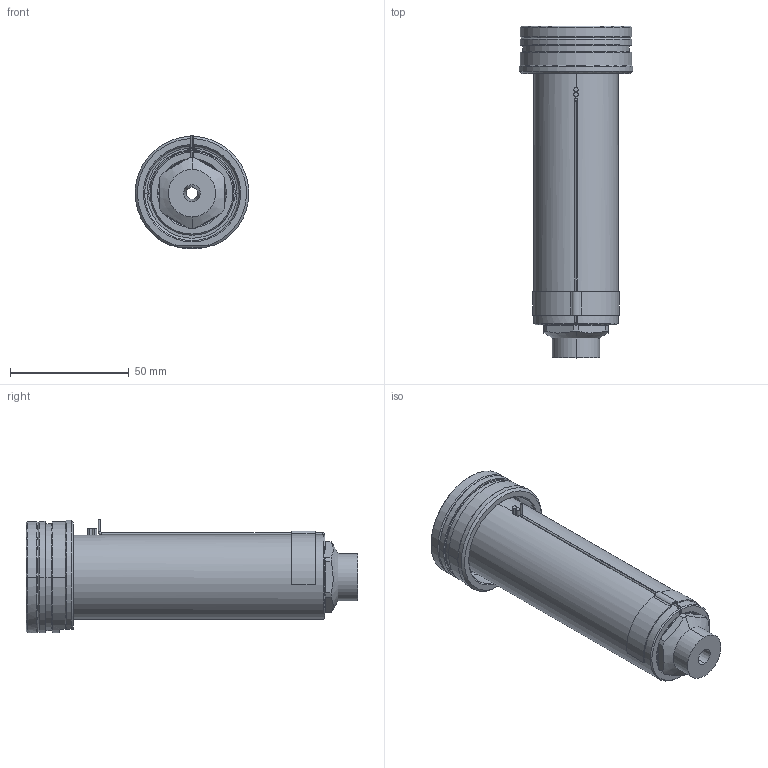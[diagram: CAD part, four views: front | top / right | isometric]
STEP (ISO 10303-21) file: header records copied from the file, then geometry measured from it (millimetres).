
FILE_DESCRIPTION((''),'2;1');
FILE_NAME('EO16_VG-ST_STD_120_SW','2024-02-19T12:55:16',('sundharh'),(''),'CREO PARAMETRIC BY PTC INC, 2023154','CREO PARAMETRIC BY PTC INC, 2023154','');
FILE_SCHEMA(('CONFIG_CONTROL_DESIGN'));
Length unit declared in the file: millimetre
Products named in the file (1): EO16_VG-ST_STD_120_SW
Bounding box: 47.97 x 140 x 48 mm (x, y, z)
Volume: 117322.3 mm3; surface area: 29890.4 mm2
Topology: 1 solids, 1 shells, 169 faces, 418 edges, 256 vertices
Faces by surface type: cylinder 64, plane 45, cone 35, torus 14, bspline 9, sphere 2
Entity records: 5793 total; most frequent: CARTESIAN_POINT 1707, DIRECTION 906, ORIENTED_EDGE 824, EDGE_CURVE 412, AXIS2_PLACEMENT_3D 374, VERTEX_POINT 256, CIRCLE 214, EDGE_LOOP 184
